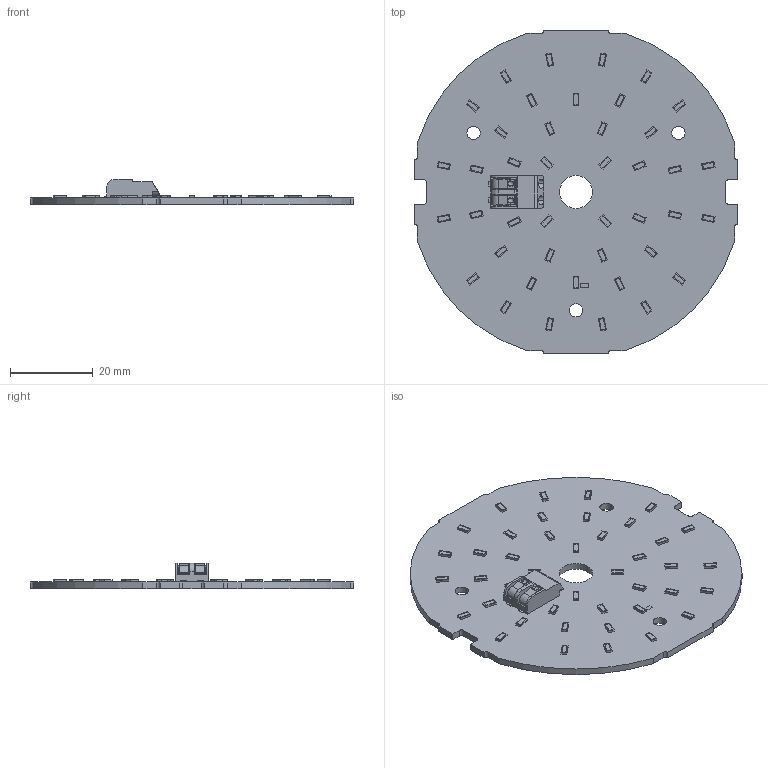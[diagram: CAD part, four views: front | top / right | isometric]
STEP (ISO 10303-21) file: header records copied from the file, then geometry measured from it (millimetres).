
FILE_DESCRIPTION((''),'2;1');
FILE_NAME('S208A_MODUL','2017-02-08T',('bernhard.fink'),(''),'PRO/ENGINEER BY PARAMETRIC TECHNOLOGY CORPORATION, 2015200','PRO/ENGINEER BY PARAMETRIC TECHNOLOGY CORPORATION, 2015200','');
FILE_SCHEMA(('AUTOMOTIVE_DESIGN { 1 0 10303 214 1 1 1 1 }'));
Length unit declared in the file: millimetre
Products named in the file (1): S208A_MODUL
Bounding box: 78 x 78 x 6.15 mm (x, y, z)
Volume: 8394.3 mm3; surface area: 10975.2 mm2
Topology: 1 solids, 1 shells, 823 faces, 2200 edges, 1468 vertices
Faces by surface type: plane 572, cylinder 249, sphere 2
Entity records: 35831 total; most frequent: CARTESIAN_POINT 4611, ORIENTED_EDGE 4400, DIRECTION 4332, PRESENTATION_STYLE_ASSIGNMENT 2638, STYLED_ITEM 2201, CURVE_STYLE 2200, EDGE_CURVE 2200, VECTOR 1666
